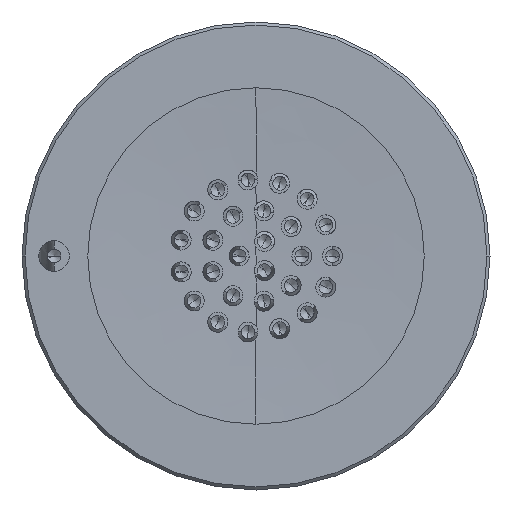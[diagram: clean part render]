
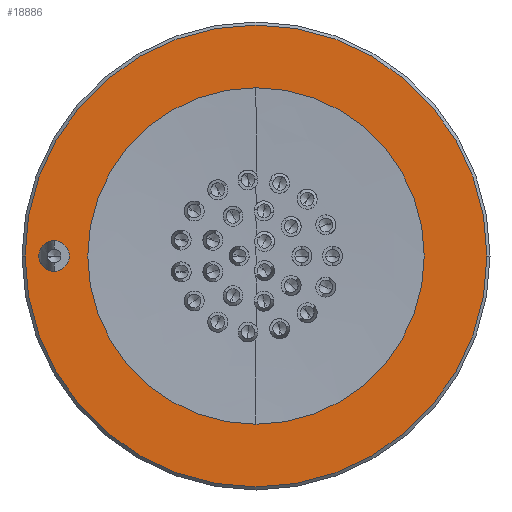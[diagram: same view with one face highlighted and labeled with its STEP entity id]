
A CAD part, left-side view. The second image highlights one B-rep face of the part: STEP entity #18886.
In plain terms, the highlighted planar face has unit normal (-1, 0, 0).
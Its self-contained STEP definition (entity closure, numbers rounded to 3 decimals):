
#2206=CARTESIAN_POINT('',(-12.5,0.,0.));
#2207=DIRECTION('',(1.,0.,0.));
#2208=DIRECTION('',(0.,1.,0.));
#2209=AXIS2_PLACEMENT_3D('',#2206,#2207,#2208);
#2211=CARTESIAN_POINT('',(-12.5,0.,0.));
#2212=DIRECTION('',(1.,0.,0.));
#2213=DIRECTION('',(0.,0.,1.));
#2214=AXIS2_PLACEMENT_3D('',#2211,#2212,#2213);
#2216=CARTESIAN_POINT('',(-12.5,0.,0.));
#2217=DIRECTION('',(1.,0.,0.));
#2218=DIRECTION('',(0.,-1.,0.));
#2219=AXIS2_PLACEMENT_3D('',#2216,#2217,#2218);
#2221=CARTESIAN_POINT('',(-12.5,0.,0.));
#2222=DIRECTION('',(1.,0.,0.));
#2223=DIRECTION('',(0.,0.,-1.));
#2224=AXIS2_PLACEMENT_3D('',#2221,#2222,#2223);
#2226=CARTESIAN_POINT('',(-12.5,6.6,0.));
#2227=DIRECTION('',(-1.,0.,0.));
#2228=DIRECTION('',(0.,-1.,0.));
#2229=AXIS2_PLACEMENT_3D('',#2226,#2227,#2228);
#2231=CARTESIAN_POINT('',(-12.5,6.6,0.));
#2232=DIRECTION('',(-1.,0.,0.));
#2233=DIRECTION('',(0.,1.,0.));
#2234=AXIS2_PLACEMENT_3D('',#2231,#2232,#2233);
#2236=CARTESIAN_POINT('',(-12.5,0.,0.));
#2237=DIRECTION('',(-1.,0.,0.));
#2238=DIRECTION('',(0.,-1.,0.));
#2239=AXIS2_PLACEMENT_3D('',#2236,#2237,#2238);
#2241=CARTESIAN_POINT('',(-12.5,0.,0.));
#2242=DIRECTION('',(-1.,0.,0.));
#2243=DIRECTION('',(0.,1.,0.));
#2244=AXIS2_PLACEMENT_3D('',#2241,#2242,#2243);
#12275=CARTESIAN_POINT('',(-12.5,5.5,0.));
#12276=VERTEX_POINT('',#12275);
#12277=CARTESIAN_POINT('',(-12.5,-5.5,0.));
#12278=VERTEX_POINT('',#12277);
#12279=CARTESIAN_POINT('',(-12.5,0.,7.55));
#12280=CARTESIAN_POINT('',(-12.5,-7.55,0.));
#12281=VERTEX_POINT('',#12279);
#12282=VERTEX_POINT('',#12280);
#12283=CARTESIAN_POINT('',(-12.5,7.55,0.));
#12284=VERTEX_POINT('',#12283);
#12285=CARTESIAN_POINT('',(-12.5,0.,-7.55));
#12286=VERTEX_POINT('',#12285);
#12287=CARTESIAN_POINT('',(-12.5,6.171,0.));
#12288=CARTESIAN_POINT('',(-12.5,7.029,0.));
#12289=VERTEX_POINT('',#12287);
#12290=VERTEX_POINT('',#12288);
#18861=CARTESIAN_POINT('',(-12.5,0.,0.));
#18862=DIRECTION('',(1.,0.,0.));
#18863=DIRECTION('',(0.,-1.,0.));
#18864=AXIS2_PLACEMENT_3D('',#18861,#18862,#18863);
#18865=PLANE('',#18864);
#18866=ORIENTED_EDGE('',*,*,#18843,.T.);
#18867=ORIENTED_EDGE('',*,*,#18841,.T.);
#18869=ORIENTED_EDGE('',*,*,#18868,.T.);
#18871=ORIENTED_EDGE('',*,*,#18870,.T.);
#18872=EDGE_LOOP('',(#18866,#18867,#18869,#18871));
#18873=FACE_OUTER_BOUND('',#18872,.F.);
#18875=ORIENTED_EDGE('',*,*,#18874,.T.);
#18877=ORIENTED_EDGE('',*,*,#18876,.T.);
#18878=EDGE_LOOP('',(#18875,#18877));
#18879=FACE_BOUND('',#18878,.F.);
#18881=ORIENTED_EDGE('',*,*,#18880,.T.);
#18883=ORIENTED_EDGE('',*,*,#18882,.T.);
#18884=EDGE_LOOP('',(#18881,#18883));
#18885=FACE_BOUND('',#18884,.F.);
#2210=CIRCLE('',#2209,7.55);
#2215=CIRCLE('',#2214,7.55);
#2220=CIRCLE('',#2219,7.55);
#2225=CIRCLE('',#2224,7.55);
#2230=CIRCLE('',#2229,0.429);
#2235=CIRCLE('',#2234,0.429);
#2240=CIRCLE('',#2239,5.5);
#2245=CIRCLE('',#2244,5.5);
#18841=EDGE_CURVE('',#12281,#12282,#2215,.T.);
#18843=EDGE_CURVE('',#12284,#12281,#2210,.T.);
#18868=EDGE_CURVE('',#12282,#12286,#2220,.T.);
#18870=EDGE_CURVE('',#12286,#12284,#2225,.T.);
#18874=EDGE_CURVE('',#12289,#12290,#2230,.T.);
#18876=EDGE_CURVE('',#12290,#12289,#2235,.T.);
#18880=EDGE_CURVE('',#12278,#12276,#2240,.T.);
#18882=EDGE_CURVE('',#12276,#12278,#2245,.T.);
#18886=ADVANCED_FACE('',(#18873,#18879,#18885),#18865,.F.);
